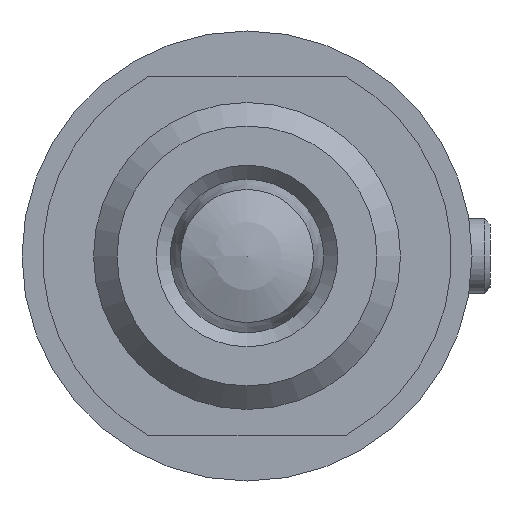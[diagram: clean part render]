
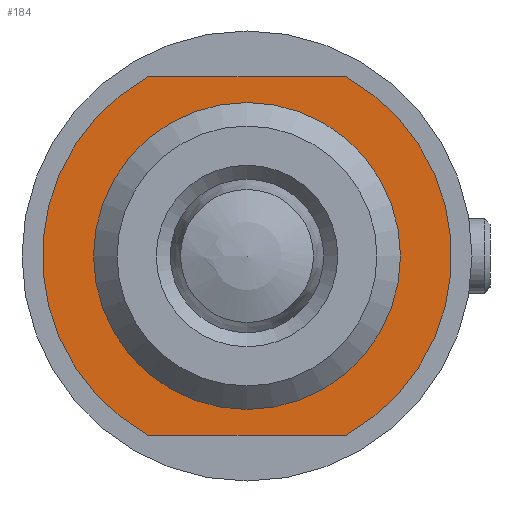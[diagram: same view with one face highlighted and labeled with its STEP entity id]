
A CAD part, left-side view. The second image highlights one B-rep face of the part: STEP entity #184.
In plain terms, the highlighted planar face has unit normal (-1, 0, 0) as drawn and (1, 0, 0) by its records, which use the part's own axes.
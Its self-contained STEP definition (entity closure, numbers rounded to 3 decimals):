
#184 = ADVANCED_FACE( '', ( #257, #258 ), #259, .T. );
#257 = FACE_BOUND( '', #380, .T. );
#258 = FACE_OUTER_BOUND( '', #381, .T. );
#259 = PLANE( '', #382 );
#380 = EDGE_LOOP( '', ( #547 ) );
#381 = EDGE_LOOP( '', ( #548, #549, #550, #551 ) );
#382 = AXIS2_PLACEMENT_3D( '', #552, #553, #554 );
#547 = ORIENTED_EDGE( '', *, *, #703, .F. );
#548 = ORIENTED_EDGE( '', *, *, #697, .T. );
#549 = ORIENTED_EDGE( '', *, *, #695, .T. );
#550 = ORIENTED_EDGE( '', *, *, #691, .T. );
#551 = ORIENTED_EDGE( '', *, *, #694, .T. );
#552 = CARTESIAN_POINT( '', ( 23., 0., 0. ) );
#553 = DIRECTION( '', ( 1., 0., 0. ) );
#554 = DIRECTION( '', ( 0., 0., -1. ) );
#691 = EDGE_CURVE( '', #753, #751, #754, .T. );
#694 = EDGE_CURVE( '', #751, #756, #758, .T. );
#695 = EDGE_CURVE( '', #759, #753, #760, .T. );
#697 = EDGE_CURVE( '', #756, #759, #762, .T. );
#703 = EDGE_CURVE( '', #773, #773, #774, .T. );
#751 = VERTEX_POINT( '', #998 );
#753 = VERTEX_POINT( '', #1001 );
#754 = CIRCLE( '', #1002, 8. );
#756 = VERTEX_POINT( '', #1005 );
#758 = LINE( '', #1008, #1009 );
#759 = VERTEX_POINT( '', #1010 );
#760 = LINE( '', #1011, #1012 );
#762 = CIRCLE( '', #1015, 8. );
#773 = VERTEX_POINT( '', #1026 );
#774 = CIRCLE( '', #1027, 5.1 );
#998 = CARTESIAN_POINT( '', ( 23., -3.873, -7. ) );
#1001 = CARTESIAN_POINT( '', ( 23., -3.873, 7. ) );
#1002 = AXIS2_PLACEMENT_3D( '', #1250, #1251, #1252 );
#1005 = CARTESIAN_POINT( '', ( 23., 3.873, -7. ) );
#1008 = CARTESIAN_POINT( '', ( 23., -3.873, -7. ) );
#1009 = VECTOR( '', #1255, 1000. );
#1010 = CARTESIAN_POINT( '', ( 23., 3.873, 7. ) );
#1011 = CARTESIAN_POINT( '', ( 23., 3.873, 7. ) );
#1012 = VECTOR( '', #1256, 1000. );
#1015 = AXIS2_PLACEMENT_3D( '', #1258, #1259, #1260 );
#1026 = CARTESIAN_POINT( '', ( 23., 0., -5.1 ) );
#1027 = AXIS2_PLACEMENT_3D( '', #1276, #1277, #1278 );
#1250 = CARTESIAN_POINT( '', ( 23., 0., 0. ) );
#1251 = DIRECTION( '', ( 1., 0., 0. ) );
#1252 = DIRECTION( '', ( 0., 0., -1. ) );
#1255 = DIRECTION( '', ( 0., 1., 0. ) );
#1256 = DIRECTION( '', ( 0., -1., 0. ) );
#1258 = CARTESIAN_POINT( '', ( 23., 0., 0. ) );
#1259 = DIRECTION( '', ( 1., 0., 0. ) );
#1260 = DIRECTION( '', ( 0., 0., -1. ) );
#1276 = CARTESIAN_POINT( '', ( 23., 0., 0. ) );
#1277 = DIRECTION( '', ( 1., 0., 0. ) );
#1278 = DIRECTION( '', ( 0., 0., -1. ) );
